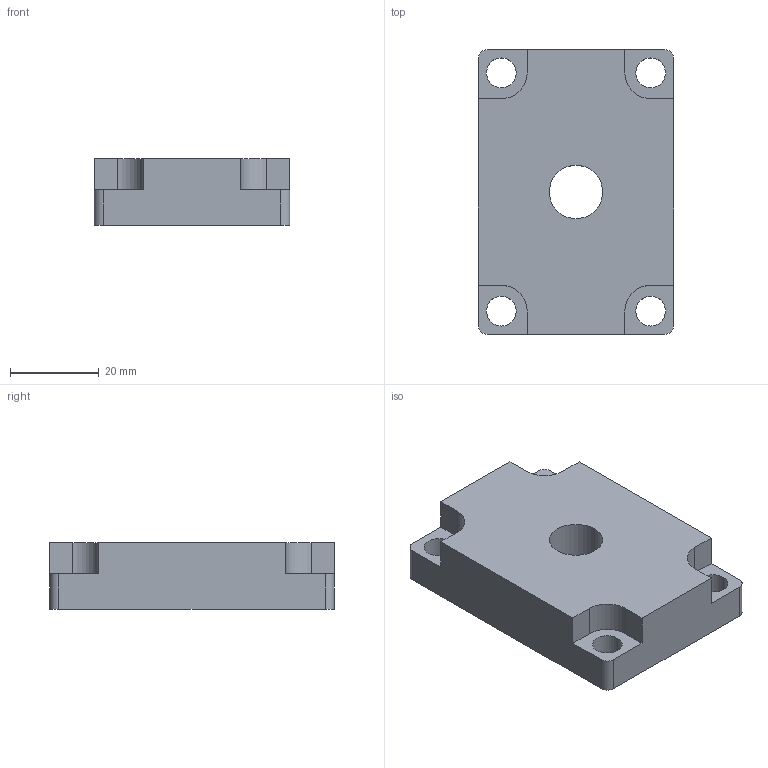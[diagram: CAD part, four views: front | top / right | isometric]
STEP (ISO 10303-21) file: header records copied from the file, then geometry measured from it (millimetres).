
FILE_DESCRIPTION (( 'STEP AP214' ), '1' );
FILE_NAME ('FBFE 44X64M12.step', '2017-04-05T08:02:45', ( '' ), ( '' ), 'SwSTEP 2.0', 'SolidWorks 2015', '' );
FILE_SCHEMA (( 'AUTOMOTIVE_DESIGN' ));
Length unit declared in the file: millimetre
Products named in the file (1): FBFE 44X64M12
Bounding box: 44 x 64 x 15 mm (x, y, z)
Volume: 36201.1 mm3; surface area: 9498.9 mm2
Topology: 1 solids, 1 shells, 36 faces, 102 edges, 68 vertices
Faces by surface type: cylinder 18, plane 18
Entity records: 1236 total; most frequent: DIRECTION 212, CARTESIAN_POINT 207, ORIENTED_EDGE 204, EDGE_CURVE 102, AXIS2_PLACEMENT_3D 73, VERTEX_POINT 68, LINE 66, VECTOR 66
